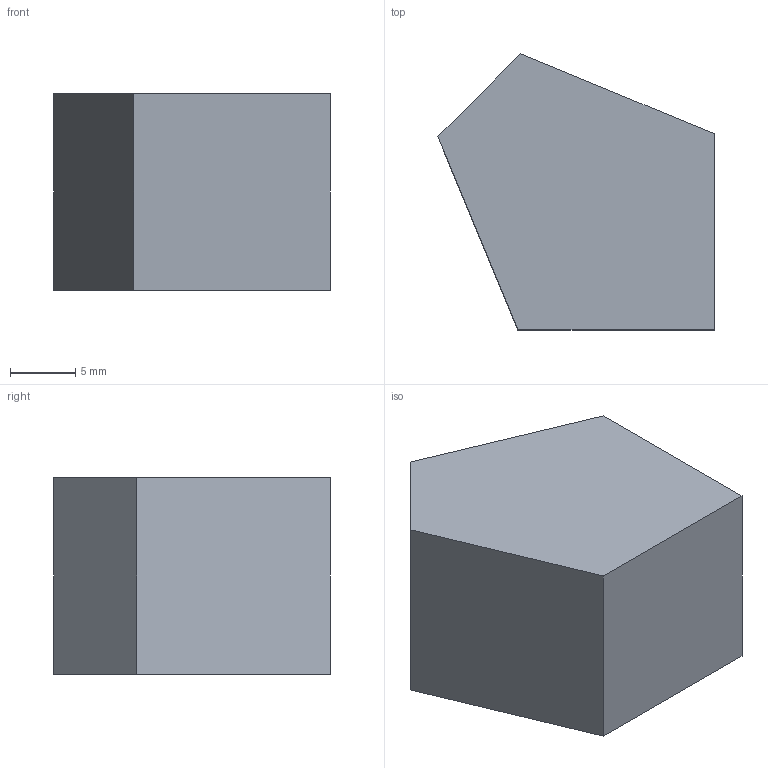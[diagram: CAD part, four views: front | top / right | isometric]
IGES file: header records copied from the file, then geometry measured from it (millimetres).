
Global section: file name: No Iges File Name specified; native system: AutoDesk Inventor R12.0; preprocessor: AutoDesk Inventor Iges Exporter R12.0; date: 20090527.154112; units: millimetre
Bounding box: 21.12 x 21.12 x 15 mm (x, y, z)
Volume: 5033.5 mm3; surface area: 1735.6 mm2
Topology: 1 solids, 1 shells, 7 faces, 15 edges, 10 vertices
Faces by surface type: plane 7
